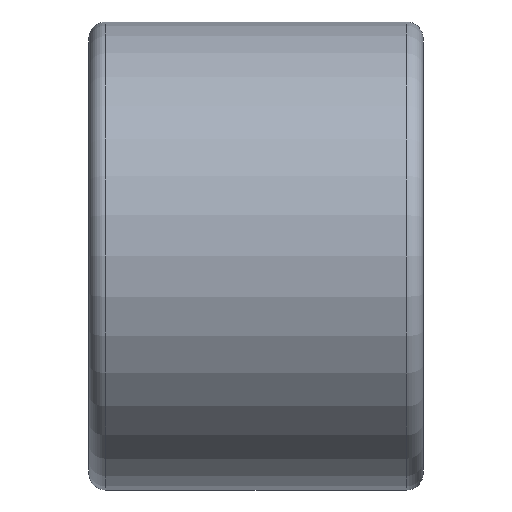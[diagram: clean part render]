
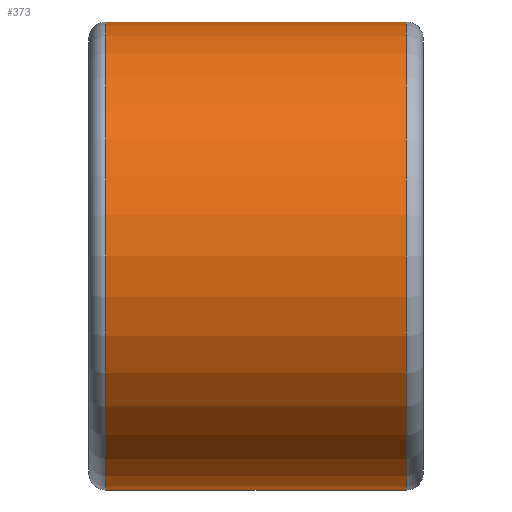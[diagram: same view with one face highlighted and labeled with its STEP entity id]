
A CAD part, front view. The second image highlights one B-rep face of the part: STEP entity #373.
In plain terms, the highlighted cylindrical face has radius 14 mm (diameter 28 mm), a full revolution.
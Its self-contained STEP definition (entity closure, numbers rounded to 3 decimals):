
#201=CYLINDRICAL_SURFACE('',#398,14.);
#209=FACE_BOUND('',#247,.T.);
#226=FACE_OUTER_BOUND('',#246,.T.);
#246=EDGE_LOOP('',(#336));
#247=EDGE_LOOP('',(#337));
#281=CIRCLE('',#397,14.);
#282=CIRCLE('',#399,14.);
#299=VERTEX_POINT('',#647);
#300=VERTEX_POINT('',#650);
#317=EDGE_CURVE('',#299,#299,#281,.T.);
#318=EDGE_CURVE('',#300,#300,#282,.T.);
#336=ORIENTED_EDGE('',*,*,#318,.F.);
#337=ORIENTED_EDGE('',*,*,#317,.F.);
#373=ADVANCED_FACE('',(#226,#209),#201,.T.);
#397=AXIS2_PLACEMENT_3D('',#648,#483,#484);
#398=AXIS2_PLACEMENT_3D('',#649,#485,#486);
#399=AXIS2_PLACEMENT_3D('',#651,#487,#488);
#483=DIRECTION('center_axis',(-1.,0.,0.));
#484=DIRECTION('ref_axis',(0.,-1.,0.));
#485=DIRECTION('center_axis',(1.,0.,0.));
#486=DIRECTION('ref_axis',(0.,1.,0.));
#487=DIRECTION('center_axis',(1.,0.,0.));
#488=DIRECTION('ref_axis',(0.,-1.,0.));
#647=CARTESIAN_POINT('',(-9.,14.,0.));
#648=CARTESIAN_POINT('Origin',(-9.,0.,0.));
#649=CARTESIAN_POINT('Origin',(0.,0.,
0.));
#650=CARTESIAN_POINT('',(9.,14.,0.));
#651=CARTESIAN_POINT('Origin',(9.,0.,0.));
